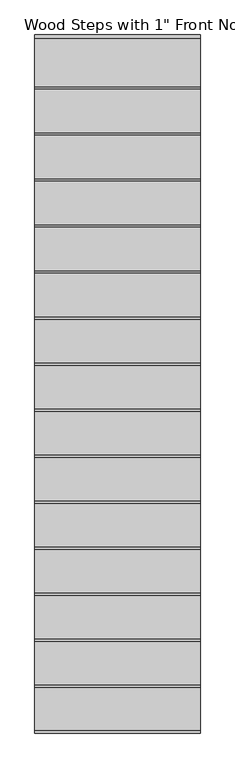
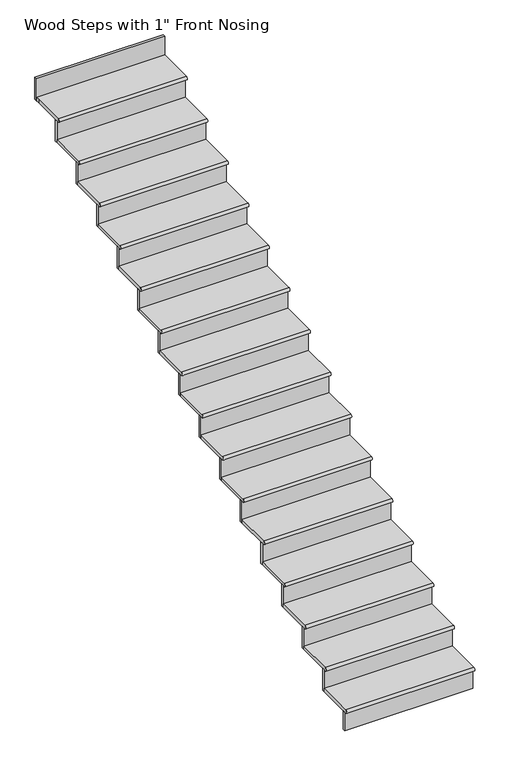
"""IFC4 building model written with IfcOpenShell, lengths in millimetres: stair flight geometry."""

from ifc_helpers import new_model, si_unit, frame, origin, place, context, project, spatial, circle_curve, faceted_brep, source, transform, mapped, element, save
from ifc_brep_helpers import plane_surface, cylinder_surface, advanced_brep


def stair_flight_8d90cf4d(model_context):
    return source(origin(), model_context, "Body", "SolidModel", [
        advanced_brep(
        [(4472.4620514, -5487.6289462, -1429.146875), (4472.4620514, -5487.6289462, -1403.746875), (3558.0620514, -5487.6289462, -1403.746875), (3558.0620514, -5487.6289462, -1429.146875), (3558.0620514, -5220.9289462, -1403.746875), (4472.4620514, -5220.9289462, -1403.746875), (3558.0620514, -5220.9289462, -1429.146875), (4472.4620514, -5220.9289462, -1429.146875)],
        [
            (0, 1, circle_curve(frame((4472.4620514, -5487.6289462, -1416.446875), z_axis=(-1.0, 0.0, 0.0), x_axis=(0.0, 1.0, 0.0)), 12.7)),
            (1, 2),
            (2, 3, circle_curve(frame((3558.0620514, -5487.6289462, -1416.446875), z_axis=(1.0, 0.0, 0.0), x_axis=(0.0, 1.0, 0.0)), 12.7)),
            (3, 0),
            (4, 2),
            (1, 5),
            (5, 4),
            (3, 6),
            (6, 7),
            (7, 0),
            (4, 6),
            (7, 5),
        ],
        [
            cylinder_surface(frame((4472.4620514, -5487.6289462, -1416.446875), z_axis=(1.0, 0.0, 0.0), x_axis=(0.0, 1.0, 0.0)), 12.7),
            plane_surface(frame((3558.0620514, -5500.3289462, -1403.746875), z_axis=(0.0, 0.0, 1.0), x_axis=(0.0, -1.0, 0.0))),
            plane_surface(frame((3558.0620514, -5500.3289462, -1429.146875), z_axis=(0.0, 0.0, -1.0), x_axis=(0.0, 1.0, 0.0))),
            plane_surface(frame((3558.0620514, -5220.9289462, -1403.746875), z_axis=(-1.0, 0.0, 0.0), x_axis=(0.0, 0.0, -1.0))),
            plane_surface(frame((4472.4620514, -5487.6289462, -1403.746875), z_axis=(1.0, 0.0, 0.0), x_axis=(0.0, 0.0, -1.0))),
            plane_surface(frame((4472.4620514, -5220.9289462, -1403.746875), z_axis=(0.0, 1.0, 0.0), x_axis=(0.0, 0.0, -1.0))),
        ],
        [
            (0, [[1, 2, 3, 4]]),
            (1, [[5, -2, 6, 7]]),
            (2, [[8, 9, 10, -4]]),
            (3, [[-5, 11, -8, -3]]),
            (4, [[-6, -1, -10, 12]]),
            (5, [[-7, -12, -9, -11]]),
        ],
    ),
        faceted_brep([(4472.4620514, -5474.9289462, -1429.146875), (4472.4620514, -5474.9289462, -1568.45), (4472.4620514, -5455.8789462, -1568.45), (4472.4620514, -5455.8789462, -1429.146875), (3558.0620514, -5474.9289462, -1429.146875), (3558.0620514, -5455.8789462, -1429.146875), (3558.0620514, -5455.8789462, -1568.45), (3558.0620514, -5474.9289462, -1568.45)], [[[0, 1, 2, 3]], [[4, 5, 6, 7]], [[1, 0, 4, 7]], [[2, 1, 7, 6]], [[3, 2, 6, 5]], [[0, 3, 5, 4]]]),
        faceted_brep([(4472.4620514, -5220.9289462, -1264.44375), (4472.4620514, -5220.9289462, -1429.146875), (4472.4620514, -5201.8789462, -1429.146875), (4472.4620514, -5201.8789462, -1264.44375), (3558.0620514, -5220.9289462, -1264.44375), (3558.0620514, -5201.8789462, -1264.44375), (3558.0620514, -5201.8789462, -1429.146875), (3558.0620514, -5220.9289462, -1429.146875)], [[[0, 1, 2, 3]], [[4, 5, 6, 7]], [[1, 0, 4, 7]], [[2, 1, 7, 6]], [[3, 2, 6, 5]], [[0, 3, 5, 4]]]),
        advanced_brep(
        [(3558.0620514, -4966.9289462, -1239.04375), (3558.0620514, -5233.6289462, -1239.04375), (4472.4620514, -5233.6289462, -1239.04375), (4472.4620514, -4966.9289462, -1239.04375), (3558.0620514, -5233.6289462, -1264.44375), (3558.0620514, -4966.9289462, -1264.44375), (4472.4620514, -4966.9289462, -1264.44375), (4472.4620514, -5233.6289462, -1264.44375)],
        [
            (0, 1),
            (1, 2),
            (2, 3),
            (3, 0),
            (4, 5),
            (5, 6),
            (6, 7),
            (7, 4),
            (0, 5),
            (4, 1, circle_curve(frame((3558.0620514, -5233.6289462, -1251.74375), z_axis=(-1.0, 0.0, 0.0), x_axis=(0.0, 1.0, 0.0)), 12.7)),
            (2, 7, circle_curve(frame((4472.4620514, -5233.6289462, -1251.74375), z_axis=(1.0, 0.0, 0.0), x_axis=(0.0, 1.0, 0.0)), 12.7)),
            (6, 3),
        ],
        [
            plane_surface(frame((3558.0620514, -5500.3289462, -1239.04375), z_axis=(0.0, 0.0, 1.0), x_axis=(0.0, -1.0, 0.0))),
            plane_surface(frame((3558.0620514, -5500.3289462, -1264.44375), z_axis=(0.0, 0.0, -1.0), x_axis=(0.0, 1.0, 0.0))),
            plane_surface(frame((3558.0620514, -4966.9289462, -1239.04375), z_axis=(-1.0, 0.0, 0.0), x_axis=(0.0, 0.0, -1.0))),
            plane_surface(frame((4472.4620514, -5233.6289462, -1239.04375), z_axis=(1.0, 0.0, 0.0), x_axis=(0.0, 0.0, -1.0))),
            plane_surface(frame((4472.4620514, -4966.9289462, -1239.04375), z_axis=(0.0, 1.0, 0.0), x_axis=(0.0, 0.0, -1.0))),
            cylinder_surface(frame((4472.4620514, -5233.6289462, -1251.74375), z_axis=(1.0, 0.0, 0.0), x_axis=(0.0, 1.0, 0.0)), 12.7),
        ],
        [
            (0, [[1, 2, 3, 4]]),
            (1, [[5, 6, 7, 8]]),
            (2, [[-1, 9, -5, 10]]),
            (3, [[-3, 11, -7, 12]]),
            (4, [[-4, -12, -6, -9]]),
            (5, [[-11, -2, -10, -8]]),
        ],
    ),
        faceted_brep([(4472.4620514, -4966.9289462, -1099.740625), (4472.4620514, -4966.9289462, -1264.44375), (4472.4620514, -4947.8789462, -1264.44375), (4472.4620514, -4947.8789462, -1099.740625), (3558.0620514, -4966.9289462, -1099.740625), (3558.0620514, -4947.8789462, -1099.740625), (3558.0620514, -4947.8789462, -1264.44375), (3558.0620514, -4966.9289462, -1264.44375)], [[[0, 1, 2, 3]], [[4, 5, 6, 7]], [[1, 0, 4, 7]], [[2, 1, 7, 6]], [[3, 2, 6, 5]], [[0, 3, 5, 4]]]),
        advanced_brep(
        [(3558.0620514, -4712.9289462, -1074.340625), (3558.0620514, -4979.6289462, -1074.340625), (4472.4620514, -4979.6289462, -1074.340625), (4472.4620514, -4712.9289462, -1074.340625), (3558.0620514, -4979.6289462, -1099.740625), (3558.0620514, -4712.9289462, -1099.740625), (4472.4620514, -4712.9289462, -1099.740625), (4472.4620514, -4979.6289462, -1099.740625)],
        [
            (0, 1),
            (1, 2),
            (2, 3),
            (3, 0),
            (4, 5),
            (5, 6),
            (6, 7),
            (7, 4),
            (0, 5),
            (4, 1, circle_curve(frame((3558.0620514, -4979.6289462, -1087.040625), z_axis=(-1.0, 0.0, 0.0), x_axis=(0.0, 1.0, 0.0)), 12.7)),
            (2, 7, circle_curve(frame((4472.4620514, -4979.6289462, -1087.040625), z_axis=(1.0, 0.0, 0.0), x_axis=(0.0, 1.0, 0.0)), 12.7)),
            (6, 3),
        ],
        [
            plane_surface(frame((3558.0620514, -5246.3289462, -1074.340625), z_axis=(0.0, 0.0, 1.0), x_axis=(0.0, -1.0, 0.0))),
            plane_surface(frame((3558.0620514, -5246.3289462, -1099.740625), z_axis=(0.0, 0.0, -1.0), x_axis=(0.0, 1.0, 0.0))),
            plane_surface(frame((3558.0620514, -4712.9289462, -1074.340625), z_axis=(-1.0, 0.0, 0.0), x_axis=(0.0, 0.0, -1.0))),
            plane_surface(frame((4472.4620514, -4979.6289462, -1074.340625), z_axis=(1.0, 0.0, 0.0), x_axis=(0.0, 0.0, -1.0))),
            plane_surface(frame((4472.4620514, -4712.9289462, -1074.340625), z_axis=(0.0, 1.0, 0.0), x_axis=(0.0, 0.0, -1.0))),
            cylinder_surface(frame((4472.4620514, -4979.6289462, -1087.040625), z_axis=(1.0, 0.0, 0.0), x_axis=(0.0, 1.0, 0.0)), 12.7),
        ],
        [
            (0, [[1, 2, 3, 4]]),
            (1, [[5, 6, 7, 8]]),
            (2, [[-1, 9, -5, 10]]),
            (3, [[-3, 11, -7, 12]]),
            (4, [[-4, -12, -6, -9]]),
            (5, [[-11, -2, -10, -8]]),
        ],
    ),
        faceted_brep([(4472.4620514, -4712.9289462, -935.0375), (4472.4620514, -4712.9289462, -1099.740625), (4472.4620514, -4693.8789462, -1099.740625), (4472.4620514, -4693.8789462, -935.0375), (3558.0620514, -4712.9289462, -935.0375), (3558.0620514, -4693.8789462, -935.0375), (3558.0620514, -4693.8789462, -1099.740625), (3558.0620514, -4712.9289462, -1099.740625)], [[[0, 1, 2, 3]], [[4, 5, 6, 7]], [[1, 0, 4, 7]], [[2, 1, 7, 6]], [[3, 2, 6, 5]], [[0, 3, 5, 4]]]),
        advanced_brep(
        [(3558.0620514, -4458.9289462, -909.6375), (3558.0620514, -4725.6289462, -909.6375), (4472.4620514, -4725.6289462, -909.6375), (4472.4620514, -4458.9289462, -909.6375), (3558.0620514, -4725.6289462, -935.0375), (3558.0620514, -4458.9289462, -935.0375), (4472.4620514, -4458.9289462, -935.0375), (4472.4620514, -4725.6289462, -935.0375)],
        [
            (0, 1),
            (1, 2),
            (2, 3),
            (3, 0),
            (4, 5),
            (5, 6),
            (6, 7),
            (7, 4),
            (0, 5),
            (4, 1, circle_curve(frame((3558.0620514, -4725.6289462, -922.3375), z_axis=(-1.0, 0.0, 0.0), x_axis=(0.0, 1.0, 0.0)), 12.7)),
            (2, 7, circle_curve(frame((4472.4620514, -4725.6289462, -922.3375), z_axis=(1.0, 0.0, 0.0), x_axis=(0.0, 1.0, 0.0)), 12.7)),
            (6, 3),
        ],
        [
            plane_surface(frame((3558.0620514, -4992.3289462, -909.6375), z_axis=(0.0, 0.0, 1.0), x_axis=(0.0, -1.0, 0.0))),
            plane_surface(frame((3558.0620514, -4992.3289462, -935.0375), z_axis=(0.0, 0.0, -1.0), x_axis=(0.0, 1.0, 0.0))),
            plane_surface(frame((3558.0620514, -4458.9289462, -909.6375), z_axis=(-1.0, 0.0, 0.0), x_axis=(0.0, 0.0, -1.0))),
            plane_surface(frame((4472.4620514, -4725.6289462, -909.6375), z_axis=(1.0, 0.0, 0.0), x_axis=(0.0, 0.0, -1.0))),
            plane_surface(frame((4472.4620514, -4458.9289462, -909.6375), z_axis=(0.0, 1.0, 0.0), x_axis=(0.0, 0.0, -1.0))),
            cylinder_surface(frame((4472.4620514, -4725.6289462, -922.3375), z_axis=(1.0, 0.0, 0.0), x_axis=(0.0, 1.0, 0.0)), 12.7),
        ],
        [
            (0, [[1, 2, 3, 4]]),
            (1, [[5, 6, 7, 8]]),
            (2, [[-1, 9, -5, 10]]),
            (3, [[-3, 11, -7, 12]]),
            (4, [[-4, -12, -6, -9]]),
            (5, [[-11, -2, -10, -8]]),
        ],
    ),
        faceted_brep([(4472.4620514, -4458.9289462, -770.334375), (4472.4620514, -4458.9289462, -935.0375), (4472.4620514, -4439.8789462, -935.0375), (4472.4620514, -4439.8789462, -770.334375), (3558.0620514, -4458.9289462, -770.334375), (3558.0620514, -4439.8789462, -770.334375), (3558.0620514, -4439.8789462, -935.0375), (3558.0620514, -4458.9289462, -935.0375)], [[[0, 1, 2, 3]], [[4, 5, 6, 7]], [[1, 0, 4, 7]], [[2, 1, 7, 6]], [[3, 2, 6, 5]], [[0, 3, 5, 4]]]),
        advanced_brep(
        [(3558.0620514, -4204.9289462, -744.934375), (3558.0620514, -4471.6289462, -744.934375), (4472.4620514, -4471.6289462, -744.934375), (4472.4620514, -4204.9289462, -744.934375), (3558.0620514, -4471.6289462, -770.334375), (3558.0620514, -4204.9289462, -770.334375), (4472.4620514, -4204.9289462, -770.334375), (4472.4620514, -4471.6289462, -770.334375)],
        [
            (0, 1),
            (1, 2),
            (2, 3),
            (3, 0),
            (4, 5),
            (5, 6),
            (6, 7),
            (7, 4),
            (0, 5),
            (4, 1, circle_curve(frame((3558.0620514, -4471.6289462, -757.634375), z_axis=(-1.0, 0.0, 0.0), x_axis=(0.0, 1.0, 0.0)), 12.7)),
            (2, 7, circle_curve(frame((4472.4620514, -4471.6289462, -757.634375), z_axis=(1.0, 0.0, 0.0), x_axis=(0.0, 1.0, 0.0)), 12.7)),
            (6, 3),
        ],
        [
            plane_surface(frame((3558.0620514, -4738.3289462, -744.934375), z_axis=(0.0, 0.0, 1.0), x_axis=(0.0, -1.0, 0.0))),
            plane_surface(frame((3558.0620514, -4738.3289462, -770.334375), z_axis=(0.0, 0.0, -1.0), x_axis=(0.0, 1.0, 0.0))),
            plane_surface(frame((3558.0620514, -4204.9289462, -744.934375), z_axis=(-1.0, 0.0, 0.0), x_axis=(0.0, 0.0, -1.0))),
            plane_surface(frame((4472.4620514, -4471.6289462, -744.934375), z_axis=(1.0, 0.0, 0.0), x_axis=(0.0, 0.0, -1.0))),
            plane_surface(frame((4472.4620514, -4204.9289462, -744.934375), z_axis=(0.0, 1.0, 0.0), x_axis=(0.0, 0.0, -1.0))),
            cylinder_surface(frame((4472.4620514, -4471.6289462, -757.634375), z_axis=(1.0, 0.0, 0.0), x_axis=(0.0, 1.0, 0.0)), 12.7),
        ],
        [
            (0, [[1, 2, 3, 4]]),
            (1, [[5, 6, 7, 8]]),
            (2, [[-1, 9, -5, 10]]),
            (3, [[-3, 11, -7, 12]]),
            (4, [[-4, -12, -6, -9]]),
            (5, [[-11, -2, -10, -8]]),
        ],
    ),
        faceted_brep([(4472.4620514, -4204.9289462, -605.63125), (4472.4620514, -4204.9289462, -770.334375), (4472.4620514, -4185.8789462, -770.334375), (4472.4620514, -4185.8789462, -605.63125), (3558.0620514, -4204.9289462, -605.63125), (3558.0620514, -4185.8789462, -605.63125), (3558.0620514, -4185.8789462, -770.334375), (3558.0620514, -4204.9289462, -770.334375)], [[[0, 1, 2, 3]], [[4, 5, 6, 7]], [[1, 0, 4, 7]], [[2, 1, 7, 6]], [[3, 2, 6, 5]], [[0, 3, 5, 4]]]),
        advanced_brep(
        [(3558.0620514, -3950.9289462, -580.23125), (3558.0620514, -4217.6289462, -580.23125), (4472.4620514, -4217.6289462, -580.23125), (4472.4620514, -3950.9289462, -580.23125), (3558.0620514, -4217.6289462, -605.63125), (3558.0620514, -3950.9289462, -605.63125), (4472.4620514, -3950.9289462, -605.63125), (4472.4620514, -4217.6289462, -605.63125)],
        [
            (0, 1),
            (1, 2),
            (2, 3),
            (3, 0),
            (4, 5),
            (5, 6),
            (6, 7),
            (7, 4),
            (0, 5),
            (4, 1, circle_curve(frame((3558.0620514, -4217.6289462, -592.93125), z_axis=(-1.0, 0.0, 0.0), x_axis=(0.0, 1.0, 0.0)), 12.7)),
            (2, 7, circle_curve(frame((4472.4620514, -4217.6289462, -592.93125), z_axis=(1.0, 0.0, 0.0), x_axis=(0.0, 1.0, 0.0)), 12.7)),
            (6, 3),
        ],
        [
            plane_surface(frame((3558.0620514, -4484.3289462, -580.23125), z_axis=(0.0, 0.0, 1.0), x_axis=(0.0, -1.0, 0.0))),
            plane_surface(frame((3558.0620514, -4484.3289462, -605.63125), z_axis=(0.0, 0.0, -1.0), x_axis=(0.0, 1.0, 0.0))),
            plane_surface(frame((3558.0620514, -3950.9289462, -580.23125), z_axis=(-1.0, 0.0, 0.0), x_axis=(0.0, 0.0, -1.0))),
            plane_surface(frame((4472.4620514, -4217.6289462, -580.23125), z_axis=(1.0, 0.0, 0.0), x_axis=(0.0, 0.0, -1.0))),
            plane_surface(frame((4472.4620514, -3950.9289462, -580.23125), z_axis=(0.0, 1.0, 0.0), x_axis=(0.0, 0.0, -1.0))),
            cylinder_surface(frame((4472.4620514, -4217.6289462, -592.93125), z_axis=(1.0, 0.0, 0.0), x_axis=(0.0, 1.0, 0.0)), 12.7),
        ],
        [
            (0, [[1, 2, 3, 4]]),
            (1, [[5, 6, 7, 8]]),
            (2, [[-1, 9, -5, 10]]),
            (3, [[-3, 11, -7, 12]]),
            (4, [[-4, -12, -6, -9]]),
            (5, [[-11, -2, -10, -8]]),
        ],
    ),
        faceted_brep([(4472.4620514, -3950.9289462, -440.928125), (4472.4620514, -3950.9289462, -605.63125), (4472.4620514, -3931.8789462, -605.63125), (4472.4620514, -3931.8789462, -440.928125), (3558.0620514, -3950.9289462, -440.928125), (3558.0620514, -3931.8789462, -440.928125), (3558.0620514, -3931.8789462, -605.63125), (3558.0620514, -3950.9289462, -605.63125)], [[[0, 1, 2, 3]], [[4, 5, 6, 7]], [[1, 0, 4, 7]], [[2, 1, 7, 6]], [[3, 2, 6, 5]], [[0, 3, 5, 4]]]),
        advanced_brep(
        [(3558.0620514, -3696.9289462, -415.528125), (3558.0620514, -3963.6289462, -415.528125), (4472.4620514, -3963.6289462, -415.528125), (4472.4620514, -3696.9289462, -415.528125), (3558.0620514, -3963.6289462, -440.928125), (3558.0620514, -3696.9289462, -440.928125), (4472.4620514, -3696.9289462, -440.928125), (4472.4620514, -3963.6289462, -440.928125)],
        [
            (0, 1),
            (1, 2),
            (2, 3),
            (3, 0),
            (4, 5),
            (5, 6),
            (6, 7),
            (7, 4),
            (0, 5),
            (4, 1, circle_curve(frame((3558.0620514, -3963.6289462, -428.228125), z_axis=(-1.0, 0.0, 0.0), x_axis=(0.0, 1.0, 0.0)), 12.7)),
            (2, 7, circle_curve(frame((4472.4620514, -3963.6289462, -428.228125), z_axis=(1.0, 0.0, 0.0), x_axis=(0.0, 1.0, 0.0)), 12.7)),
            (6, 3),
        ],
        [
            plane_surface(frame((3558.0620514, -4230.3289462, -415.528125), z_axis=(0.0, 0.0, 1.0), x_axis=(0.0, -1.0, 0.0))),
            plane_surface(frame((3558.0620514, -4230.3289462, -440.928125), z_axis=(0.0, 0.0, -1.0), x_axis=(0.0, 1.0, 0.0))),
            plane_surface(frame((3558.0620514, -3696.9289462, -415.528125), z_axis=(-1.0, 0.0, 0.0), x_axis=(0.0, 0.0, -1.0))),
            plane_surface(frame((4472.4620514, -3963.6289462, -415.528125), z_axis=(1.0, 0.0, 0.0), x_axis=(0.0, 0.0, -1.0))),
            plane_surface(frame((4472.4620514, -3696.9289462, -415.528125), z_axis=(0.0, 1.0, 0.0), x_axis=(0.0, 0.0, -1.0))),
            cylinder_surface(frame((4472.4620514, -3963.6289462, -428.228125), z_axis=(1.0, 0.0, 0.0), x_axis=(0.0, 1.0, 0.0)), 12.7),
        ],
        [
            (0, [[1, 2, 3, 4]]),
            (1, [[5, 6, 7, 8]]),
            (2, [[-1, 9, -5, 10]]),
            (3, [[-3, 11, -7, 12]]),
            (4, [[-4, -12, -6, -9]]),
            (5, [[-11, -2, -10, -8]]),
        ],
    ),
        faceted_brep([(4472.4620514, -3696.9289462, -276.225), (4472.4620514, -3696.9289462, -440.928125), (4472.4620514, -3677.8789462, -440.928125), (4472.4620514, -3677.8789462, -276.225), (3558.0620514, -3696.9289462, -276.225), (3558.0620514, -3677.8789462, -276.225), (3558.0620514, -3677.8789462, -440.928125), (3558.0620514, -3696.9289462, -440.928125)], [[[0, 1, 2, 3]], [[4, 5, 6, 7]], [[1, 0, 4, 7]], [[2, 1, 7, 6]], [[3, 2, 6, 5]], [[0, 3, 5, 4]]]),
        advanced_brep(
        [(3558.0620514, -3442.9289462, -250.825), (3558.0620514, -3709.6289462, -250.825), (4472.4620514, -3709.6289462, -250.825), (4472.4620514, -3442.9289462, -250.825), (3558.0620514, -3709.6289462, -276.225), (3558.0620514, -3442.9289462, -276.225), (4472.4620514, -3442.9289462, -276.225), (4472.4620514, -3709.6289462, -276.225)],
        [
            (0, 1),
            (1, 2),
            (2, 3),
            (3, 0),
            (4, 5),
            (5, 6),
            (6, 7),
            (7, 4),
            (0, 5),
            (4, 1, circle_curve(frame((3558.0620514, -3709.6289462, -263.525), z_axis=(-1.0, 0.0, 0.0), x_axis=(0.0, 1.0, 0.0)), 12.7)),
            (2, 7, circle_curve(frame((4472.4620514, -3709.6289462, -263.525), z_axis=(1.0, 0.0, 0.0), x_axis=(0.0, 1.0, 0.0)), 12.7)),
            (6, 3),
        ],
        [
            plane_surface(frame((3558.0620514, -3976.3289462, -250.825), z_axis=(0.0, 0.0, 1.0), x_axis=(0.0, -1.0, 0.0))),
            plane_surface(frame((3558.0620514, -3976.3289462, -276.225), z_axis=(0.0, 0.0, -1.0), x_axis=(0.0, 1.0, 0.0))),
            plane_surface(frame((3558.0620514, -3442.9289462, -250.825), z_axis=(-1.0, 0.0, 0.0), x_axis=(0.0, 0.0, -1.0))),
            plane_surface(frame((4472.4620514, -3709.6289462, -250.825), z_axis=(1.0, 0.0, 0.0), x_axis=(0.0, 0.0, -1.0))),
            plane_surface(frame((4472.4620514, -3442.9289462, -250.825), z_axis=(0.0, 1.0, 0.0), x_axis=(0.0, 0.0, -1.0))),
            cylinder_surface(frame((4472.4620514, -3709.6289462, -263.525), z_axis=(1.0, 0.0, 0.0), x_axis=(0.0, 1.0, 0.0)), 12.7),
        ],
        [
            (0, [[1, 2, 3, 4]]),
            (1, [[5, 6, 7, 8]]),
            (2, [[-1, 9, -5, 10]]),
            (3, [[-3, 11, -7, 12]]),
            (4, [[-4, -12, -6, -9]]),
            (5, [[-11, -2, -10, -8]]),
        ],
    ),
        faceted_brep([(4472.4620514, -3442.9289462, -111.521875), (4472.4620514, -3442.9289462, -276.225), (4472.4620514, -3423.8789462, -276.225), (4472.4620514, -3423.8789462, -111.521875), (3558.0620514, -3442.9289462, -111.521875), (3558.0620514, -3423.8789462, -111.521875), (3558.0620514, -3423.8789462, -276.225), (3558.0620514, -3442.9289462, -276.225)], [[[0, 1, 2, 3]], [[4, 5, 6, 7]], [[1, 0, 4, 7]], [[2, 1, 7, 6]], [[3, 2, 6, 5]], [[0, 3, 5, 4]]]),
        advanced_brep(
        [(3558.0620514, -3188.9289462, -86.121875), (3558.0620514, -3455.6289462, -86.121875), (4472.4620514, -3455.6289462, -86.121875), (4472.4620514, -3188.9289462, -86.121875), (3558.0620514, -3455.6289462, -111.521875), (3558.0620514, -3188.9289462, -111.521875), (4472.4620514, -3188.9289462, -111.521875), (4472.4620514, -3455.6289462, -111.521875)],
        [
            (0, 1),
            (1, 2),
            (2, 3),
            (3, 0),
            (4, 5),
            (5, 6),
            (6, 7),
            (7, 4),
            (0, 5),
            (4, 1, circle_curve(frame((3558.0620514, -3455.6289462, -98.821875), z_axis=(-1.0, 0.0, 0.0), x_axis=(0.0, 1.0, 0.0)), 12.7)),
            (2, 7, circle_curve(frame((4472.4620514, -3455.6289462, -98.821875), z_axis=(1.0, 0.0, 0.0), x_axis=(0.0, 1.0, 0.0)), 12.7)),
            (6, 3),
        ],
        [
            plane_surface(frame((3558.0620514, -3722.3289462, -86.121875), z_axis=(0.0, 0.0, 1.0), x_axis=(0.0, -1.0, 0.0))),
            plane_surface(frame((3558.0620514, -3722.3289462, -111.521875), z_axis=(0.0, 0.0, -1.0), x_axis=(0.0, 1.0, 0.0))),
            plane_surface(frame((3558.0620514, -3188.9289462, -86.121875), z_axis=(-1.0, 0.0, 0.0), x_axis=(0.0, 0.0, -1.0))),
            plane_surface(frame((4472.4620514, -3455.6289462, -86.121875), z_axis=(1.0, 0.0, 0.0), x_axis=(0.0, 0.0, -1.0))),
            plane_surface(frame((4472.4620514, -3188.9289462, -86.121875), z_axis=(0.0, 1.0, 0.0), x_axis=(0.0, 0.0, -1.0))),
            cylinder_surface(frame((4472.4620514, -3455.6289462, -98.821875), z_axis=(1.0, 0.0, 0.0), x_axis=(0.0, 1.0, 0.0)), 12.7),
        ],
        [
            (0, [[1, 2, 3, 4]]),
            (1, [[5, 6, 7, 8]]),
            (2, [[-1, 9, -5, 10]]),
            (3, [[-3, 11, -7, 12]]),
            (4, [[-4, -12, -6, -9]]),
            (5, [[-11, -2, -10, -8]]),
        ],
    ),
        faceted_brep([(4472.4620514, -3188.9289462, 53.18125), (4472.4620514, -3188.9289462, -111.521875), (4472.4620514, -3169.8789462, -111.521875), (4472.4620514, -3169.8789462, 53.18125), (3558.0620514, -3188.9289462, 53.18125), (3558.0620514, -3169.8789462, 53.18125), (3558.0620514, -3169.8789462, -111.521875), (3558.0620514, -3188.9289462, -111.521875)], [[[0, 1, 2, 3]], [[4, 5, 6, 7]], [[1, 0, 4, 7]], [[2, 1, 7, 6]], [[3, 2, 6, 5]], [[0, 3, 5, 4]]]),
        advanced_brep(
        [(3558.0620514, -2934.9289462, 78.58125), (3558.0620514, -3201.6289462, 78.58125), (4472.4620514, -3201.6289462, 78.58125), (4472.4620514, -2934.9289462, 78.58125), (3558.0620514, -3201.6289462, 53.18125), (3558.0620514, -2934.9289462, 53.18125), (4472.4620514, -2934.9289462, 53.18125), (4472.4620514, -3201.6289462, 53.18125)],
        [
            (0, 1),
            (1, 2),
            (2, 3),
            (3, 0),
            (4, 5),
            (5, 6),
            (6, 7),
            (7, 4),
            (0, 5),
            (4, 1, circle_curve(frame((3558.0620514, -3201.6289462, 65.88125), z_axis=(-1.0, 0.0, 0.0), x_axis=(0.0, 1.0, 0.0)), 12.7)),
            (2, 7, circle_curve(frame((4472.4620514, -3201.6289462, 65.88125), z_axis=(1.0, 0.0, 0.0), x_axis=(0.0, 1.0, 0.0)), 12.7)),
            (6, 3),
        ],
        [
            plane_surface(frame((3558.0620514, -3468.3289462, 78.58125), z_axis=(0.0, 0.0, 1.0), x_axis=(0.0, -1.0, 0.0))),
            plane_surface(frame((3558.0620514, -3468.3289462, 53.18125), z_axis=(0.0, 0.0, -1.0), x_axis=(0.0, 1.0, 0.0))),
            plane_surface(frame((3558.0620514, -2934.9289462, 78.58125), z_axis=(-1.0, 0.0, 0.0), x_axis=(0.0, 0.0, -1.0))),
            plane_surface(frame((4472.4620514, -3201.6289462, 78.58125), z_axis=(1.0, 0.0, 0.0), x_axis=(0.0, 0.0, -1.0))),
            plane_surface(frame((4472.4620514, -2934.9289462, 78.58125), z_axis=(0.0, 1.0, 0.0), x_axis=(0.0, 0.0, -1.0))),
            cylinder_surface(frame((4472.4620514, -3201.6289462, 65.88125), z_axis=(1.0, 0.0, 0.0), x_axis=(0.0, 1.0, 0.0)), 12.7),
        ],
        [
            (0, [[1, 2, 3, 4]]),
            (1, [[5, 6, 7, 8]]),
            (2, [[-1, 9, -5, 10]]),
            (3, [[-3, 11, -7, 12]]),
            (4, [[-4, -12, -6, -9]]),
            (5, [[-11, -2, -10, -8]]),
        ],
    ),
        faceted_brep([(4472.4620514, -2934.9289462, 217.884375), (4472.4620514, -2934.9289462, 53.18125), (4472.4620514, -2915.8789462, 53.18125), (4472.4620514, -2915.8789462, 217.884375), (3558.0620514, -2934.9289462, 217.884375), (3558.0620514, -2915.8789462, 217.884375), (3558.0620514, -2915.8789462, 53.18125), (3558.0620514, -2934.9289462, 53.18125)], [[[0, 1, 2, 3]], [[4, 5, 6, 7]], [[1, 0, 4, 7]], [[2, 1, 7, 6]], [[3, 2, 6, 5]], [[0, 3, 5, 4]]]),
        advanced_brep(
        [(3558.0620514, -2680.9289462, 243.284375), (3558.0620514, -2947.6289462, 243.284375), (4472.4620514, -2947.6289462, 243.284375), (4472.4620514, -2680.9289462, 243.284375), (3558.0620514, -2947.6289462, 217.884375), (3558.0620514, -2680.9289462, 217.884375), (4472.4620514, -2680.9289462, 217.884375), (4472.4620514, -2947.6289462, 217.884375)],
        [
            (0, 1),
            (1, 2),
            (2, 3),
            (3, 0),
            (4, 5),
            (5, 6),
            (6, 7),
            (7, 4),
            (0, 5),
            (4, 1, circle_curve(frame((3558.0620514, -2947.6289462, 230.584375), z_axis=(-1.0, 0.0, 0.0), x_axis=(0.0, 1.0, 0.0)), 12.7)),
            (2, 7, circle_curve(frame((4472.4620514, -2947.6289462, 230.584375), z_axis=(1.0, 0.0, 0.0), x_axis=(0.0, 1.0, 0.0)), 12.7)),
            (6, 3),
        ],
        [
            plane_surface(frame((3558.0620514, -3214.3289462, 243.284375), z_axis=(0.0, 0.0, 1.0), x_axis=(0.0, -1.0, 0.0))),
            plane_surface(frame((3558.0620514, -3214.3289462, 217.884375), z_axis=(0.0, 0.0, -1.0), x_axis=(0.0, 1.0, 0.0))),
            plane_surface(frame((3558.0620514, -2680.9289462, 243.284375), z_axis=(-1.0, 0.0, 0.0), x_axis=(0.0, 0.0, -1.0))),
            plane_surface(frame((4472.4620514, -2947.6289462, 243.284375), z_axis=(1.0, 0.0, 0.0), x_axis=(0.0, 0.0, -1.0))),
            plane_surface(frame((4472.4620514, -2680.9289462, 243.284375), z_axis=(0.0, 1.0, 0.0), x_axis=(0.0, 0.0, -1.0))),
            cylinder_surface(frame((4472.4620514, -2947.6289462, 230.584375), z_axis=(1.0, 0.0, 0.0), x_axis=(0.0, 1.0, 0.0)), 12.7),
        ],
        [
            (0, [[1, 2, 3, 4]]),
            (1, [[5, 6, 7, 8]]),
            (2, [[-1, 9, -5, 10]]),
            (3, [[-3, 11, -7, 12]]),
            (4, [[-4, -12, -6, -9]]),
            (5, [[-11, -2, -10, -8]]),
        ],
    ),
        faceted_brep([(4472.4620514, -2680.9289462, 382.5875), (4472.4620514, -2680.9289462, 217.884375), (4472.4620514, -2661.8789462, 217.884375), (4472.4620514, -2661.8789462, 382.5875), (3558.0620514, -2680.9289462, 382.5875), (3558.0620514, -2661.8789462, 382.5875), (3558.0620514, -2661.8789462, 217.884375), (3558.0620514, -2680.9289462, 217.884375)], [[[0, 1, 2, 3]], [[4, 5, 6, 7]], [[1, 0, 4, 7]], [[2, 1, 7, 6]], [[3, 2, 6, 5]], [[0, 3, 5, 4]]]),
        advanced_brep(
        [(3558.0620514, -2426.9289462, 407.9875), (3558.0620514, -2693.6289462, 407.9875), (4472.4620514, -2693.6289462, 407.9875), (4472.4620514, -2426.9289462, 407.9875), (3558.0620514, -2693.6289462, 382.5875), (3558.0620514, -2426.9289462, 382.5875), (4472.4620514, -2426.9289462, 382.5875), (4472.4620514, -2693.6289462, 382.5875)],
        [
            (0, 1),
            (1, 2),
            (2, 3),
            (3, 0),
            (4, 5),
            (5, 6),
            (6, 7),
            (7, 4),
            (0, 5),
            (4, 1, circle_curve(frame((3558.0620514, -2693.6289462, 395.2875), z_axis=(-1.0, 0.0, 0.0), x_axis=(0.0, 1.0, 0.0)), 12.7)),
            (2, 7, circle_curve(frame((4472.4620514, -2693.6289462, 395.2875), z_axis=(1.0, 0.0, 0.0), x_axis=(0.0, 1.0, 0.0)), 12.7)),
            (6, 3),
        ],
        [
            plane_surface(frame((3558.0620514, -2960.3289462, 407.9875), z_axis=(0.0, 0.0, 1.0), x_axis=(0.0, -1.0, 0.0))),
            plane_surface(frame((3558.0620514, -2960.3289462, 382.5875), z_axis=(0.0, 0.0, -1.0), x_axis=(0.0, 1.0, 0.0))),
            plane_surface(frame((3558.0620514, -2426.9289462, 407.9875), z_axis=(-1.0, 0.0, 0.0), x_axis=(0.0, 0.0, -1.0))),
            plane_surface(frame((4472.4620514, -2693.6289462, 407.9875), z_axis=(1.0, 0.0, 0.0), x_axis=(0.0, 0.0, -1.0))),
            plane_surface(frame((4472.4620514, -2426.9289462, 407.9875), z_axis=(0.0, 1.0, 0.0), x_axis=(0.0, 0.0, -1.0))),
            cylinder_surface(frame((4472.4620514, -2693.6289462, 395.2875), z_axis=(1.0, 0.0, 0.0), x_axis=(0.0, 1.0, 0.0)), 12.7),
        ],
        [
            (0, [[1, 2, 3, 4]]),
            (1, [[5, 6, 7, 8]]),
            (2, [[-1, 9, -5, 10]]),
            (3, [[-3, 11, -7, 12]]),
            (4, [[-4, -12, -6, -9]]),
            (5, [[-11, -2, -10, -8]]),
        ],
    ),
        faceted_brep([(4472.4620514, -2426.9289462, 547.290625), (4472.4620514, -2426.9289462, 382.5875), (4472.4620514, -2407.8789462, 382.5875), (4472.4620514, -2407.8789462, 547.290625), (3558.0620514, -2426.9289462, 547.290625), (3558.0620514, -2407.8789462, 547.290625), (3558.0620514, -2407.8789462, 382.5875), (3558.0620514, -2426.9289462, 382.5875)], [[[0, 1, 2, 3]], [[4, 5, 6, 7]], [[1, 0, 4, 7]], [[2, 1, 7, 6]], [[3, 2, 6, 5]], [[0, 3, 5, 4]]]),
        advanced_brep(
        [(3558.0620514, -2172.9289462, 572.690625), (3558.0620514, -2439.6289462, 572.690625), (4472.4620514, -2439.6289462, 572.690625), (4472.4620514, -2172.9289462, 572.690625), (3558.0620514, -2439.6289462, 547.290625), (3558.0620514, -2172.9289462, 547.290625), (4472.4620514, -2172.9289462, 547.290625), (4472.4620514, -2439.6289462, 547.290625)],
        [
            (0, 1),
            (1, 2),
            (2, 3),
            (3, 0),
            (4, 5),
            (5, 6),
            (6, 7),
            (7, 4),
            (0, 5),
            (4, 1, circle_curve(frame((3558.0620514, -2439.6289462, 559.990625), z_axis=(-1.0, 0.0, 0.0), x_axis=(0.0, 1.0, 0.0)), 12.7)),
            (2, 7, circle_curve(frame((4472.4620514, -2439.6289462, 559.990625), z_axis=(1.0, 0.0, 0.0), x_axis=(0.0, 1.0, 0.0)), 12.7)),
            (6, 3),
        ],
        [
            plane_surface(frame((3558.0620514, -2706.3289462, 572.690625), z_axis=(0.0, 0.0, 1.0), x_axis=(0.0, -1.0, 0.0))),
            plane_surface(frame((3558.0620514, -2706.3289462, 547.290625), z_axis=(0.0, 0.0, -1.0), x_axis=(0.0, 1.0, 0.0))),
            plane_surface(frame((3558.0620514, -2172.9289462, 572.690625), z_axis=(-1.0, 0.0, 0.0), x_axis=(0.0, 0.0, -1.0))),
            plane_surface(frame((4472.4620514, -2439.6289462, 572.690625), z_axis=(1.0, 0.0, 0.0), x_axis=(0.0, 0.0, -1.0))),
            plane_surface(frame((4472.4620514, -2172.9289462, 572.690625), z_axis=(0.0, 1.0, 0.0), x_axis=(0.0, 0.0, -1.0))),
            cylinder_surface(frame((4472.4620514, -2439.6289462, 559.990625), z_axis=(1.0, 0.0, 0.0), x_axis=(0.0, 1.0, 0.0)), 12.7),
        ],
        [
            (0, [[1, 2, 3, 4]]),
            (1, [[5, 6, 7, 8]]),
            (2, [[-1, 9, -5, 10]]),
            (3, [[-3, 11, -7, 12]]),
            (4, [[-4, -12, -6, -9]]),
            (5, [[-11, -2, -10, -8]]),
        ],
    ),
        faceted_brep([(4472.4620514, -2172.9289462, 711.99375), (4472.4620514, -2172.9289462, 547.290625), (4472.4620514, -2153.8789462, 547.290625), (4472.4620514, -2153.8789462, 711.99375), (3558.0620514, -2172.9289462, 711.99375), (3558.0620514, -2153.8789462, 711.99375), (3558.0620514, -2153.8789462, 547.290625), (3558.0620514, -2172.9289462, 547.290625)], [[[0, 1, 2, 3]], [[4, 5, 6, 7]], [[1, 0, 4, 7]], [[2, 1, 7, 6]], [[3, 2, 6, 5]], [[0, 3, 5, 4]]]),
        advanced_brep(
        [(3558.0620514, -1918.9289462, 737.39375), (3558.0620514, -2185.6289462, 737.39375), (4472.4620514, -2185.6289462, 737.39375), (4472.4620514, -1918.9289462, 737.39375), (3558.0620514, -2185.6289462, 711.99375), (3558.0620514, -1918.9289462, 711.99375), (4472.4620514, -1918.9289462, 711.99375), (4472.4620514, -2185.6289462, 711.99375)],
        [
            (0, 1),
            (1, 2),
            (2, 3),
            (3, 0),
            (4, 5),
            (5, 6),
            (6, 7),
            (7, 4),
            (0, 5),
            (4, 1, circle_curve(frame((3558.0620514, -2185.6289462, 724.69375), z_axis=(-1.0, 0.0, 0.0), x_axis=(0.0, 1.0, 0.0)), 12.7)),
            (2, 7, circle_curve(frame((4472.4620514, -2185.6289462, 724.69375), z_axis=(1.0, 0.0, 0.0), x_axis=(0.0, 1.0, 0.0)), 12.7)),
            (6, 3),
        ],
        [
            plane_surface(frame((3558.0620514, -2452.3289462, 737.39375), z_axis=(0.0, 0.0, 1.0), x_axis=(0.0, -1.0, 0.0))),
            plane_surface(frame((3558.0620514, -2452.3289462, 711.99375), z_axis=(0.0, 0.0, -1.0), x_axis=(0.0, 1.0, 0.0))),
            plane_surface(frame((3558.0620514, -1918.9289462, 737.39375), z_axis=(-1.0, 0.0, 0.0), x_axis=(0.0, 0.0, -1.0))),
            plane_surface(frame((4472.4620514, -2185.6289462, 737.39375), z_axis=(1.0, 0.0, 0.0), x_axis=(0.0, 0.0, -1.0))),
            plane_surface(frame((4472.4620514, -1918.9289462, 737.39375), z_axis=(0.0, 1.0, 0.0), x_axis=(0.0, 0.0, -1.0))),
            cylinder_surface(frame((4472.4620514, -2185.6289462, 724.69375), z_axis=(1.0, 0.0, 0.0), x_axis=(0.0, 1.0, 0.0)), 12.7),
        ],
        [
            (0, [[1, 2, 3, 4]]),
            (1, [[5, 6, 7, 8]]),
            (2, [[-1, 9, -5, 10]]),
            (3, [[-3, 11, -7, 12]]),
            (4, [[-4, -12, -6, -9]]),
            (5, [[-11, -2, -10, -8]]),
        ],
    ),
        faceted_brep([(4472.4620514, -1664.9289462, 1041.4), (4472.4620514, -1664.9289462, 876.696875), (4472.4620514, -1645.8789462, 876.696875), (4472.4620514, -1645.8789462, 1041.4), (3558.0620514, -1664.9289462, 1041.4), (3558.0620514, -1645.8789462, 1041.4), (3558.0620514, -1645.8789462, 876.696875), (3558.0620514, -1664.9289462, 876.696875)], [[[0, 1, 2, 3]], [[4, 5, 6, 7]], [[1, 0, 4, 7]], [[2, 1, 7, 6]], [[3, 2, 6, 5]], [[0, 3, 5, 4]]]),
        faceted_brep([(4472.4620514, -1918.9289462, 876.696875), (4472.4620514, -1918.9289462, 711.99375), (4472.4620514, -1899.8789462, 711.99375), (4472.4620514, -1899.8789462, 876.696875), (3558.0620514, -1918.9289462, 876.696875), (3558.0620514, -1899.8789462, 876.696875), (3558.0620514, -1899.8789462, 711.99375), (3558.0620514, -1918.9289462, 711.99375)], [[[0, 1, 2, 3]], [[4, 5, 6, 7]], [[1, 0, 4, 7]], [[2, 1, 7, 6]], [[3, 2, 6, 5]], [[0, 3, 5, 4]]]),
        advanced_brep(
        [(3558.0620514, -1664.9289462, 902.096875), (3558.0620514, -1690.3289462, 902.096875), (3558.0620514, -1931.6289462, 902.096875), (4472.4620514, -1931.6289462, 902.096875), (4472.4620514, -1690.3289462, 902.096875), (4472.4620514, -1664.9289462, 902.096875), (3558.0620514, -1690.3289462, 876.696875), (3558.0620514, -1664.9289462, 876.696875), (4472.4620514, -1664.9289462, 876.696875), (4472.4620514, -1690.3289462, 876.696875), (4472.4620514, -1931.6289462, 876.696875), (3558.0620514, -1931.6289462, 876.696875)],
        [
            (0, 1),
            (1, 2),
            (2, 3),
            (3, 4),
            (4, 5),
            (5, 0),
            (6, 7),
            (7, 8),
            (8, 9),
            (9, 10),
            (10, 11),
            (11, 6),
            (0, 7),
            (6, 1),
            (11, 2, circle_curve(frame((3558.0620514, -1931.6289462, 889.396875), z_axis=(-1.0, 0.0, 0.0), x_axis=(0.0, 1.0, 0.0)), 12.7)),
            (3, 10, circle_curve(frame((4472.4620514, -1931.6289462, 889.396875), z_axis=(1.0, 0.0, 0.0), x_axis=(0.0, 1.0, 0.0)), 12.7)),
            (9, 4),
            (8, 5),
        ],
        [
            plane_surface(frame((3558.0620514, -1690.3289462, 902.096875), z_axis=(0.0, 0.0, 1.0), x_axis=(0.0, -1.0, 0.0))),
            plane_surface(frame((3558.0620514, -1690.3289462, 876.696875), z_axis=(0.0, 0.0, -1.0), x_axis=(0.0, 1.0, 0.0))),
            plane_surface(frame((3558.0620514, -1664.9289462, 902.096875), z_axis=(-1.0, 0.0, 0.0), x_axis=(0.0, 0.0, -1.0))),
            plane_surface(frame((3558.0620514, -1690.3289462, 902.096875), z_axis=(-1.0, 0.0, 0.0), x_axis=(0.0, 0.0, -1.0))),
            plane_surface(frame((4472.4620514, -1931.6289462, 902.096875), z_axis=(1.0, 0.0, 0.0), x_axis=(0.0, 0.0, -1.0))),
            plane_surface(frame((4472.4620514, -1690.3289462, 902.096875), z_axis=(1.0, 0.0, 0.0), x_axis=(0.0, 0.0, -1.0))),
            plane_surface(frame((4472.4620514, -1664.9289462, 902.096875), z_axis=(0.0, 1.0, 0.0), x_axis=(0.0, 0.0, -1.0))),
            cylinder_surface(frame((4472.4620514, -1931.6289462, 889.396875), z_axis=(1.0, 0.0, 0.0), x_axis=(0.0, 1.0, 0.0)), 12.7),
        ],
        [
            (0, [[1, 2, 3, 4, 5, 6]]),
            (1, [[7, 8, 9, 10, 11, 12]]),
            (2, [[-1, 13, -7, 14]]),
            (3, [[-2, -14, -12, 15]]),
            (4, [[-4, 16, -10, 17]]),
            (5, [[-5, -17, -9, 18]]),
            (6, [[-6, -18, -8, -13]]),
            (7, [[-16, -3, -15, -11]]),
        ],
    ),
    ])


if __name__ == "__main__":
    model = new_model("IFC4")
    model_context = context("Model", 3, world=origin())
    ifc_project = project(units=[si_unit("LENGTHUNIT", "METRE", prefix="MILLI")], contexts=[model_context])
    site = spatial("IfcSite", under=ifc_project)
    building = spatial("IfcBuilding", under=site)
    placement = place(None, origin())
    stair_flight_shape = stair_flight_8d90cf4d(model_context)
    element("IfcStairFlight", 1, ObjectType="Wood Steps with 1\" Front Nosing", at=placement, inside=building, context=model_context, shape_type="MappedRepresentation", body=[
        mapped(stair_flight_shape, transform((0.0, 0.0, 0.0), x_axis=(1.0, 0.0, 0.0), y_axis=(0.0, 1.0, 0.0), z_axis=(0.0, 0.0, 1.0))),
    ])
    save(model, "model.ifc")
